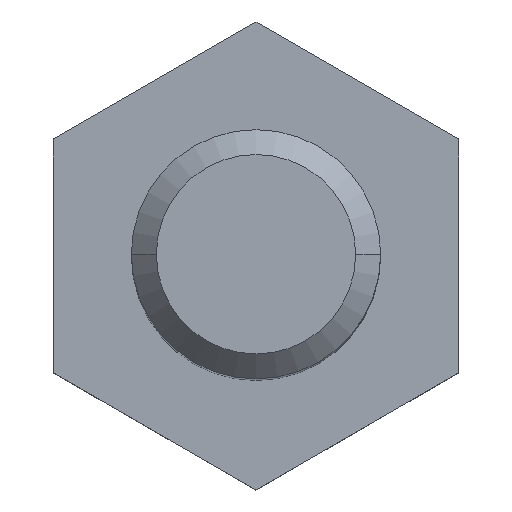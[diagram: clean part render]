
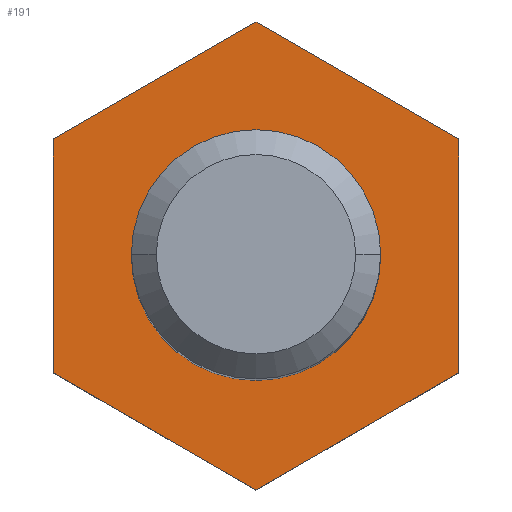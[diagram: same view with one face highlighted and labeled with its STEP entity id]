
A CAD part, top view. The second image highlights one B-rep face of the part: STEP entity #191.
In plain terms, the highlighted planar face has unit normal (0, 0, 1).
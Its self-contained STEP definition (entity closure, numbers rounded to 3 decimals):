
#18 = CARTESIAN_POINT ( 'NONE',  ( 6.5, 3.753, 0. ) ) ;
#23 = DIRECTION ( 'NONE',  ( -0.866, 0.5, 0. ) ) ;
#24 = CARTESIAN_POINT ( 'NONE',  ( 0., 7.506, 0. ) ) ;
#25 = LINE ( 'NONE', #24, #26 ) ;
#26 = VECTOR ( 'NONE', #23, 1000. ) ;
#31 = CARTESIAN_POINT ( 'NONE',  ( 0., 7.506, 0. ) ) ;
#50 = DIRECTION ( 'NONE',  ( 1., 0., 0. ) ) ;
#51 = DIRECTION ( 'NONE',  ( 0., 0., -1. ) ) ;
#52 = CARTESIAN_POINT ( 'NONE',  ( 0., 0., 0. ) ) ;
#53 = AXIS2_PLACEMENT_3D ( 'NONE', #52, #51, #50 ) ;
#54 = CIRCLE ( 'NONE', #53, 4. ) ;
#55 = CARTESIAN_POINT ( 'NONE',  ( -4., 0., 0. ) ) ;
#72 = CARTESIAN_POINT ( 'NONE',  ( 4., 0., 0. ) ) ;
#103 = VECTOR ( 'NONE', #138, 1000. ) ;
#109 = LINE ( 'NONE', #115, #103 ) ;
#115 = CARTESIAN_POINT ( 'NONE',  ( 0., -7.506, 0. ) ) ;
#122 = CARTESIAN_POINT ( 'NONE',  ( 0., -7.506, 0. ) ) ;
#138 = DIRECTION ( 'NONE',  ( 0.866, 0.5, 0. ) ) ;
#149 = ORIENTED_EDGE ( 'NONE', *, *, #348, .T. ) ;
#152 = ORIENTED_EDGE ( 'NONE', *, *, #221, .T. ) ;
#153 = ORIENTED_EDGE ( 'NONE', *, *, #211, .T. ) ;
#157 = ORIENTED_EDGE ( 'NONE', *, *, #398, .T. ) ;
#188 = ORIENTED_EDGE ( 'NONE', *, *, #453, .T. ) ;
#189 = ORIENTED_EDGE ( 'NONE', *, *, #194, .T. ) ;
#191 = ADVANCED_FACE ( 'NONE', ( #299, #298 ), #296, .T. ) ;
#194 = EDGE_CURVE ( 'NONE', #451, #213, #341, .T. ) ;
#211 = EDGE_CURVE ( 'NONE', #213, #222, #234, .T. ) ;
#213 = VERTEX_POINT ( 'NONE', #281 ) ;
#221 = EDGE_CURVE ( 'NONE', #222, #399, #260, .T. ) ;
#222 = VERTEX_POINT ( 'NONE', #256 ) ;
#233 = CARTESIAN_POINT ( 'NONE',  ( -6.5, -3.753, 0. ) ) ;
#234 = LINE ( 'NONE', #233, #283 ) ;
#248 = ORIENTED_EDGE ( 'NONE', *, *, #370, .T. ) ;
#249 = ORIENTED_EDGE ( 'NONE', *, *, #475, .T. ) ;
#250 = EDGE_LOOP ( 'NONE', ( #188, #189, #153, #152, #157, #149 ) ) ;
#254 = EDGE_LOOP ( 'NONE', ( #248, #249 ) ) ;
#256 = CARTESIAN_POINT ( 'NONE',  ( -6.5, -3.753, 0. ) ) ;
#257 = DIRECTION ( 'NONE',  ( 0.866, -0.5, 0. ) ) ;
#258 = VECTOR ( 'NONE', #257, 1000. ) ;
#259 = CARTESIAN_POINT ( 'NONE',  ( 0., -7.506, 0. ) ) ;
#260 = LINE ( 'NONE', #259, #258 ) ;
#281 = CARTESIAN_POINT ( 'NONE',  ( -6.5, 3.753, 0. ) ) ;
#282 = DIRECTION ( 'NONE',  ( 0., -1., 0. ) ) ;
#283 = VECTOR ( 'NONE', #282, 1000. ) ;
#284 = DIRECTION ( 'NONE',  ( 1., 0., 0. ) ) ;
#285 = DIRECTION ( 'NONE',  ( 0., 0., 1. ) ) ;
#286 = CARTESIAN_POINT ( 'NONE',  ( 6.5, 3.753, 0. ) ) ;
#287 = AXIS2_PLACEMENT_3D ( 'NONE', #286, #285, #284 ) ;
#296 = PLANE ( 'NONE',  #287 ) ;
#298 = FACE_OUTER_BOUND ( 'NONE', #250, .T. ) ;
#299 = FACE_BOUND ( 'NONE', #254, .T. ) ;
#338 = DIRECTION ( 'NONE',  ( -0.866, -0.5, 0. ) ) ;
#339 = VECTOR ( 'NONE', #338, 1000. ) ;
#340 = CARTESIAN_POINT ( 'NONE',  ( -6.5, 3.753, 0. ) ) ;
#341 = LINE ( 'NONE', #340, #339 ) ;
#348 = EDGE_CURVE ( 'NONE', #349, #454, #545, .T. ) ;
#349 = VERTEX_POINT ( 'NONE', #508 ) ;
#370 = EDGE_CURVE ( 'NONE', #477, #476, #483, .T. ) ;
#398 = EDGE_CURVE ( 'NONE', #399, #349, #109, .T. ) ;
#399 = VERTEX_POINT ( 'NONE', #122 ) ;
#451 = VERTEX_POINT ( 'NONE', #31 ) ;
#453 = EDGE_CURVE ( 'NONE', #454, #451, #25, .T. ) ;
#454 = VERTEX_POINT ( 'NONE', #18 ) ;
#475 = EDGE_CURVE ( 'NONE', #476, #477, #54, .T. ) ;
#476 = VERTEX_POINT ( 'NONE', #55 ) ;
#477 = VERTEX_POINT ( 'NONE', #72 ) ;
#480 = DIRECTION ( 'NONE',  ( 1., 0., 0. ) ) ;
#481 = DIRECTION ( 'NONE',  ( 0., 0., -1. ) ) ;
#482 = AXIS2_PLACEMENT_3D ( 'NONE', #488, #481, #480 ) ;
#483 = CIRCLE ( 'NONE', #482, 4. ) ;
#488 = CARTESIAN_POINT ( 'NONE',  ( 0., 0., 0. ) ) ;
#508 = CARTESIAN_POINT ( 'NONE',  ( 6.5, -3.753, 0. ) ) ;
#538 = DIRECTION ( 'NONE',  ( 0., 1., 0. ) ) ;
#539 = VECTOR ( 'NONE', #538, 1000. ) ;
#540 = CARTESIAN_POINT ( 'NONE',  ( 6.5, -3.753, 0. ) ) ;
#545 = LINE ( 'NONE', #540, #539 ) ;
